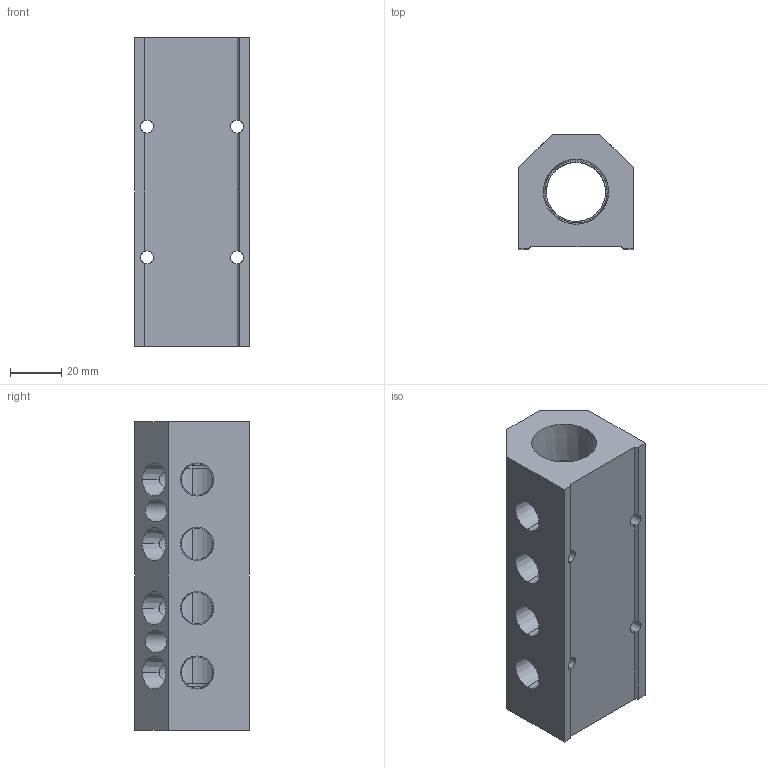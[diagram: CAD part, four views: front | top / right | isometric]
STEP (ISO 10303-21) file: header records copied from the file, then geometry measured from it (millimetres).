
FILE_DESCRIPTION (( 'STEP AP214' ), '1' );
FILE_NAME ('ALM4ABC-N4N12-120B.step', '2022-02-06T14:10:24', ( '' ), ( '' ), 'SwSTEP 2.0', 'SolidWorks 2020', '' );
FILE_SCHEMA (( 'AUTOMOTIVE_DESIGN' ));
Length unit declared in the file: millimetre
Products named in the file (1): ALM4ABC-N4N12-120B
Bounding box: 44.5 x 44.5 x 120 mm (x, y, z)
Volume: 140786.1 mm3; surface area: 35582 mm2
Topology: 1 solids, 1 shells, 347 faces, 962 edges, 638 vertices
Faces by surface type: plane 228, bspline 55, cone 35, cylinder 29
Entity records: 15960 total; most frequent: CARTESIAN_POINT 7221, ORIENTED_EDGE 1924, DIRECTION 1400, EDGE_CURVE 962, VECTOR 650, LINE 650, VERTEX_POINT 638, EDGE_LOOP 402
